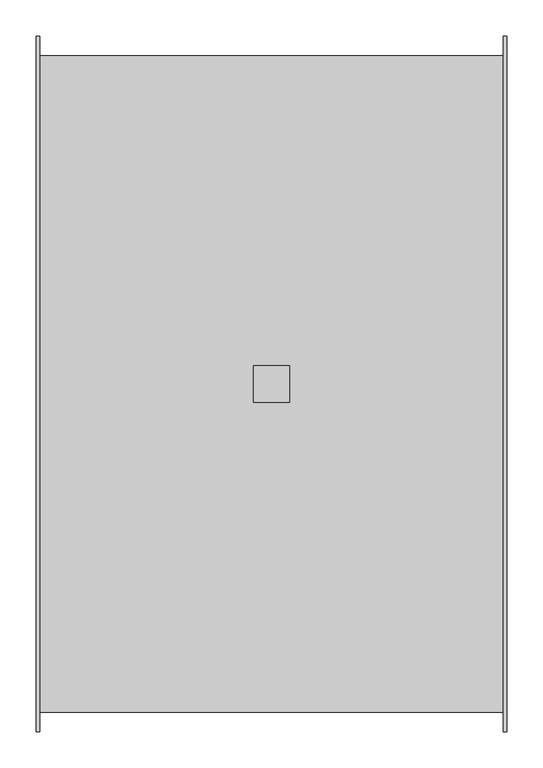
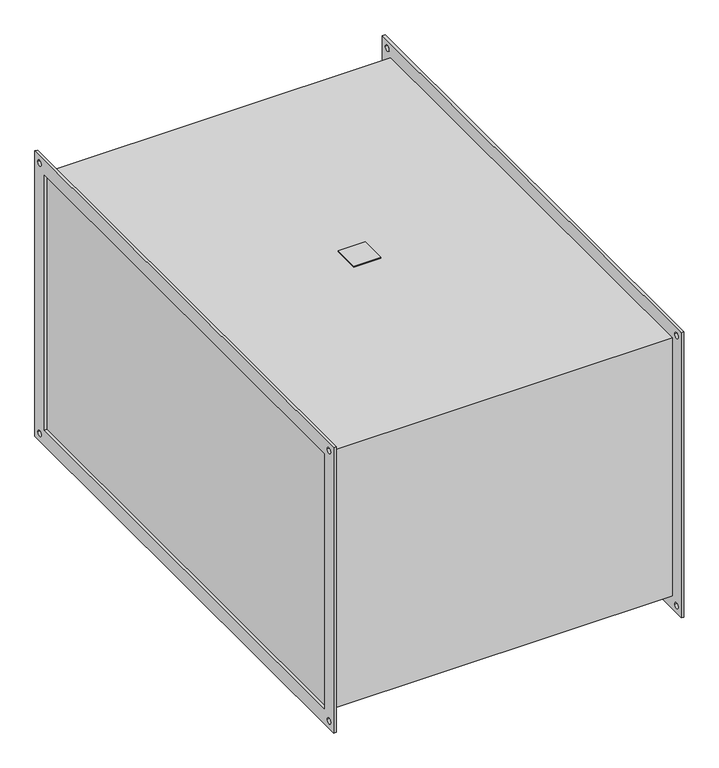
"""IFC4 building model written with IfcOpenShell, lengths in millimetres: proxy geometry, KORF_Вентилятор_WNP : WNP 90-50/35R.2D."""

from ifc_helpers import new_model, si_unit, point, frame, frame_2d, origin, place, context, project, spatial, polyline, circle_curve, trimmed, segment, composite_curve, outline, extrude, source, transform, mapped, element, save


def mechanical_equipment_f3fb8328(model_context):
    return source(origin(), model_context, "Body", "SweptSolid", [
        extrude(outline(polyline([(300.0, -25.0), (300.0, 25.0), (350.0, 25.0), (350.0, -25.0), (300.0, -25.0)])), frame((0.0, 0.0, 253.0), z_axis=(0.0, 0.0, 1.0), x_axis=(1.0, 0.0, 0.0)), (0.0, 0.0, 1.0), 2.0),
        extrude(outline(polyline([(-480.0, 280.0), (480.0, 280.0), (480.0, -280.0), (-480.0, -280.0), (-480.0, 280.0)]), holes=[polyline([(-450.0, 250.0), (-450.0, -250.0), (450.0, -250.0), (450.0, 250.0), (-450.0, 250.0)]), composite_curve([segment(trimmed(circle_curve(frame_2d((465.0, 265.0)), 5.5), [point((459.5, 265.0))], [point((470.5, 265.0))], True, "CARTESIAN"), True, "CONTINUOUS"), segment(trimmed(circle_curve(frame_2d((465.0, 265.0)), 5.5), [point((470.5, 265.0))], [point((459.5, 265.0))], True, "CARTESIAN"), True, "CONTINUOUS")], self_intersect=False), composite_curve([segment(trimmed(circle_curve(frame_2d((-465.0, 265.0)), 5.5), [point((-470.5, 265.0))], [point((-459.5, 265.0))], True, "CARTESIAN"), True, "CONTINUOUS"), segment(trimmed(circle_curve(frame_2d((-465.0, 265.0)), 5.5), [point((-459.5, 265.0))], [point((-470.5, 265.0))], True, "CARTESIAN"), True, "CONTINUOUS")], self_intersect=False), composite_curve([segment(trimmed(circle_curve(frame_2d((-465.0, -265.0)), 5.5), [point((-470.5, -265.0))], [point((-459.5, -265.0))], True, "CARTESIAN"), True, "CONTINUOUS"), segment(trimmed(circle_curve(frame_2d((-465.0, -265.0)), 5.5), [point((-459.5, -265.0))], [point((-470.5, -265.0))], True, "CARTESIAN"), True, "CONTINUOUS")], self_intersect=False), composite_curve([segment(trimmed(circle_curve(frame_2d((465.0, -265.0)), 5.5), [point((459.5, -265.0))], [point((470.5, -265.0))], True, "CARTESIAN"), True, "CONTINUOUS"), segment(trimmed(circle_curve(frame_2d((465.0, -265.0)), 5.5), [point((470.5, -265.0))], [point((459.5, -265.0))], True, "CARTESIAN"), True, "CONTINUOUS")], self_intersect=False)]), frame((645.0, 0.0, 0.0), z_axis=(1.0, 0.0, 0.0), x_axis=(0.0, 1.0, 0.0)), (0.0, 0.0, 1.0), 5.0),
        extrude(outline(polyline([(-480.0, 280.0), (480.0, 280.0), (480.0, -280.0), (-480.0, -280.0), (-480.0, 280.0)]), holes=[polyline([(-450.0, 250.0), (-450.0, -250.0), (450.0, -250.0), (450.0, 250.0), (-450.0, 250.0)]), composite_curve([segment(trimmed(circle_curve(frame_2d((465.0, 265.0)), 5.5), [point((459.5, 265.0))], [point((470.5, 265.0))], True, "CARTESIAN"), True, "CONTINUOUS"), segment(trimmed(circle_curve(frame_2d((465.0, 265.0)), 5.5), [point((470.5, 265.0))], [point((459.5, 265.0))], True, "CARTESIAN"), True, "CONTINUOUS")], self_intersect=False), composite_curve([segment(trimmed(circle_curve(frame_2d((-465.0, 265.0)), 5.5), [point((-470.5, 265.0))], [point((-459.5, 265.0))], True, "CARTESIAN"), True, "CONTINUOUS"), segment(trimmed(circle_curve(frame_2d((-465.0, 265.0)), 5.5), [point((-459.5, 265.0))], [point((-470.5, 265.0))], True, "CARTESIAN"), True, "CONTINUOUS")], self_intersect=False), composite_curve([segment(trimmed(circle_curve(frame_2d((-465.0, -265.0)), 5.5), [point((-470.5, -265.0))], [point((-459.5, -265.0))], True, "CARTESIAN"), True, "CONTINUOUS"), segment(trimmed(circle_curve(frame_2d((-465.0, -265.0)), 5.5), [point((-459.5, -265.0))], [point((-470.5, -265.0))], True, "CARTESIAN"), True, "CONTINUOUS")], self_intersect=False), composite_curve([segment(trimmed(circle_curve(frame_2d((465.0, -265.0)), 5.5), [point((459.5, -265.0))], [point((470.5, -265.0))], True, "CARTESIAN"), True, "CONTINUOUS"), segment(trimmed(circle_curve(frame_2d((465.0, -265.0)), 5.5), [point((470.5, -265.0))], [point((459.5, -265.0))], True, "CARTESIAN"), True, "CONTINUOUS")], self_intersect=False)]), frame((0.0, 0.0, 0.0), z_axis=(1.0, 0.0, 0.0), x_axis=(0.0, 1.0, 0.0)), (0.0, 0.0, 1.0), 5.0),
        extrude(outline(polyline([(645.0, 453.0), (645.0, -453.0), (5.0, -453.0), (5.0, 453.0), (645.0, 453.0)])), frame((0.0, 0.0, -253.0), z_axis=(0.0, 0.0, 1.0), x_axis=(1.0, 0.0, 0.0)), (0.0, 0.0, 1.0), 506.0),
    ])


if __name__ == "__main__":
    model = new_model("IFC4")
    model_context = context("Model", 3, world=origin())
    ifc_project = project(units=[si_unit("LENGTHUNIT", "METRE", prefix="MILLI")], contexts=[model_context])
    site = spatial("IfcSite", under=ifc_project)
    building = spatial("IfcBuilding", under=site)
    placement = place(None, origin())
    mechanical_equipment_shape = mechanical_equipment_f3fb8328(model_context)
    element("IfcBuildingElementProxy", 1, Name="KORF_Вентилятор_WNP : WNP 90-50/35R.2D", ObjectType="KORF_Вентилятор_WNP : WNP 90-50/35R.2D", at=placement, inside=building, context=model_context, shape_type="MappedRepresentation", body=[
        mapped(mechanical_equipment_shape, transform((0.0, 0.0, 0.0), x_axis=(1.0, 0.0, 0.0), y_axis=(0.0, 1.0, 0.0), z_axis=(0.0, 0.0, 1.0))),
    ])
    save(model, "model.ifc")
